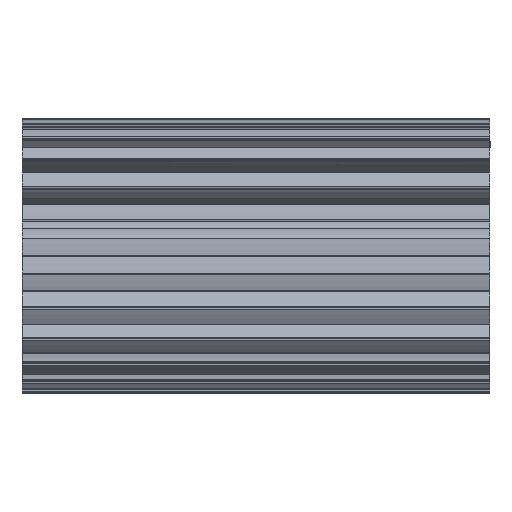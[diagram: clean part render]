
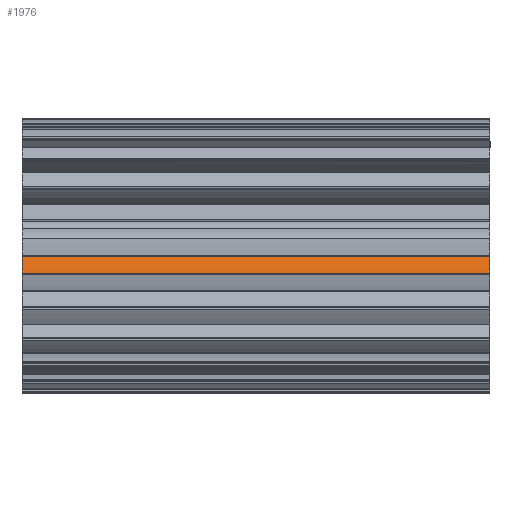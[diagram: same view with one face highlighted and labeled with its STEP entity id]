
A CAD part, left-side view. The second image highlights one B-rep face of the part: STEP entity #1976.
In plain terms, the highlighted cylindrical face has radius 45.52 mm (diameter 91.04 mm), a partial arc.
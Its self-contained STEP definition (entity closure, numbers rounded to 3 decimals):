
#293 = LINE ( 'NONE', #11276, #10847 ) ;
#454 = AXIS2_PLACEMENT_3D ( 'NONE', #3105, #10472, #4178 ) ;
#1831 = CARTESIAN_POINT ( 'NONE',  ( -43.903, -15.666, 36.472 ) ) ;
#1976 = ADVANCED_FACE ( 'NONE', ( #8267 ), #13214, .F. ) ;
#2155 = AXIS2_PLACEMENT_3D ( 'NONE', #1831, #2882, #5009 ) ;
#2541 = DIRECTION ( 'NONE',  ( 0., -1., 0. ) ) ;
#2882 = DIRECTION ( 'NONE',  ( 0., 1., 0. ) ) ;
#3065 = ORIENTED_EDGE ( 'NONE', *, *, #5532, .F. ) ;
#3105 = CARTESIAN_POINT ( 'NONE',  ( -43.903, -14.88, 36.472 ) ) ;
#3820 = EDGE_LOOP ( 'NONE', ( #3065, #13095, #8703, #4596 ) ) ;
#3845 = CARTESIAN_POINT ( 'NONE',  ( -21.472, 65.12, -3.137 ) ) ;
#4178 = DIRECTION ( 'NONE',  ( 0., 0., 1. ) ) ;
#4421 = EDGE_CURVE ( 'NONE', #9153, #9653, #293, .T. ) ;
#4500 = VECTOR ( 'NONE', #7199, 1000. ) ;
#4596 = ORIENTED_EDGE ( 'NONE', *, *, #9225, .F. ) ;
#5009 = DIRECTION ( 'NONE',  ( 0., 0., 1. ) ) ;
#5085 = CARTESIAN_POINT ( 'NONE',  ( -16.713, 17.499, -0.035 ) ) ;
#5532 = EDGE_CURVE ( 'NONE', #10838, #12646, #7293, .T. ) ;
#6171 = CARTESIAN_POINT ( 'NONE',  ( -21.472, -14.88, -3.137 ) ) ;
#7199 = DIRECTION ( 'NONE',  ( 0., -1., 0. ) ) ;
#7293 = LINE ( 'NONE', #5085, #4500 ) ;
#7387 = CIRCLE ( 'NONE', #8094, 45.52 ) ;
#7491 = CARTESIAN_POINT ( 'NONE',  ( -16.713, -14.88, -0.035 ) ) ;
#8094 = AXIS2_PLACEMENT_3D ( 'NONE', #8859, #2541, #9902 ) ;
#8142 = DIRECTION ( 'NONE',  ( 0., 1., 0. ) ) ;
#8267 = FACE_OUTER_BOUND ( 'NONE', #3820, .T. ) ;
#8703 = ORIENTED_EDGE ( 'NONE', *, *, #4421, .F. ) ;
#8859 = CARTESIAN_POINT ( 'NONE',  ( -43.903, 65.12, 36.472 ) ) ;
#9153 = VERTEX_POINT ( 'NONE', #6171 ) ;
#9225 = EDGE_CURVE ( 'NONE', #12646, #9153, #9518, .T. ) ;
#9518 = CIRCLE ( 'NONE', #454, 45.52 ) ;
#9653 = VERTEX_POINT ( 'NONE', #3845 ) ;
#9902 = DIRECTION ( 'NONE',  ( 0., 0., 1. ) ) ;
#10042 = CARTESIAN_POINT ( 'NONE',  ( -16.713, 65.12, -0.035 ) ) ;
#10472 = DIRECTION ( 'NONE',  ( 0., 1., 0. ) ) ;
#10838 = VERTEX_POINT ( 'NONE', #10042 ) ;
#10847 = VECTOR ( 'NONE', #8142, 1000. ) ;
#11276 = CARTESIAN_POINT ( 'NONE',  ( -21.472, -15.666, -3.137 ) ) ;
#12646 = VERTEX_POINT ( 'NONE', #7491 ) ;
#13095 = ORIENTED_EDGE ( 'NONE', *, *, #13468, .F. ) ;
#13214 = CYLINDRICAL_SURFACE ( 'NONE', #2155, 45.52 ) ;
#13468 = EDGE_CURVE ( 'NONE', #9653, #10838, #7387, .T. ) ;
